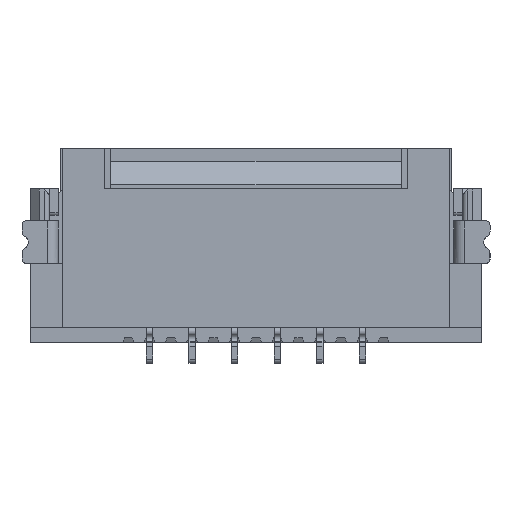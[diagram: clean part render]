
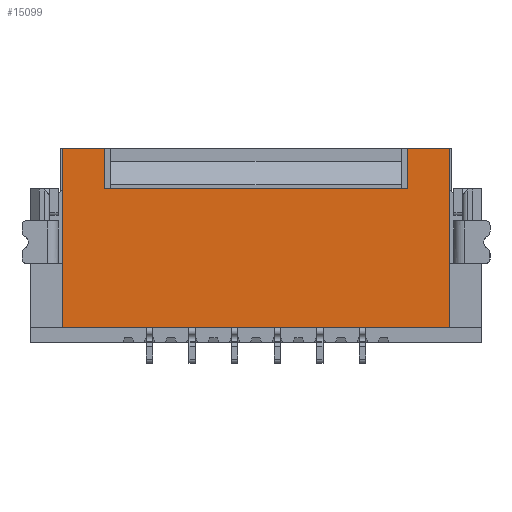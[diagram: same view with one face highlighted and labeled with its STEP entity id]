
A CAD part, front view. The second image highlights one B-rep face of the part: STEP entity #15099.
In plain terms, the highlighted planar face has unit normal (0, -1, 0).
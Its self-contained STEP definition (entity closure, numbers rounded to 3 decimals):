
#490 = DIRECTION ( 'NONE',  ( 1., 0., 0. ) ) ;
#774 = ORIENTED_EDGE ( 'NONE', *, *, #24287, .F. ) ;
#1101 = EDGE_CURVE ( 'NONE', #3991, #21468, #24185, .T. ) ;
#1594 = CARTESIAN_POINT ( 'NONE',  ( -7.55, 0.02, 3.6 ) ) ;
#2151 = VERTEX_POINT ( 'NONE', #19284 ) ;
#2256 = ORIENTED_EDGE ( 'NONE', *, *, #6588, .T. ) ;
#2680 = CARTESIAN_POINT ( 'NONE',  ( -7.55, 0.02, 3.6 ) ) ;
#3340 = VECTOR ( 'NONE', #15910, 1000. ) ;
#3991 = VERTEX_POINT ( 'NONE', #1594 ) ;
#4543 = LINE ( 'NONE', #15266, #17598 ) ;
#4938 = VERTEX_POINT ( 'NONE', #8193 ) ;
#6588 = EDGE_CURVE ( 'NONE', #25237, #2151, #8123, .T. ) ;
#6699 = VERTEX_POINT ( 'NONE', #19023 ) ;
#7390 = ORIENTED_EDGE ( 'NONE', *, *, #20955, .F. ) ;
#8123 = LINE ( 'NONE', #12975, #3340 ) ;
#8193 = CARTESIAN_POINT ( 'NONE',  ( -7.55, 0.02, 4.55 ) ) ;
#9050 = CARTESIAN_POINT ( 'NONE',  ( -8.54, 0.02, 0.35 ) ) ;
#10504 = ORIENTED_EDGE ( 'NONE', *, *, #32669, .T. ) ;
#11202 = CARTESIAN_POINT ( 'NONE',  ( -7.55, 0.02, 3.6 ) ) ;
#12033 = DIRECTION ( 'NONE',  ( 1., 0., 0. ) ) ;
#12138 = CARTESIAN_POINT ( 'NONE',  ( -0.45, 0.02, 3.6 ) ) ;
#12486 = CARTESIAN_POINT ( 'NONE',  ( 0., 0.02, 2.45 ) ) ;
#12975 = CARTESIAN_POINT ( 'NONE',  ( 0.54, 0.02, 4.55 ) ) ;
#15080 = LINE ( 'NONE', #12138, #32560 ) ;
#15099 = ADVANCED_FACE ( 'NONE', ( #24042 ), #18675, .F. ) ;
#15266 = CARTESIAN_POINT ( 'NONE',  ( -8.54, 0.02, 4.55 ) ) ;
#15285 = ORIENTED_EDGE ( 'NONE', *, *, #33474, .T. ) ;
#15295 = DIRECTION ( 'NONE',  ( 0., 0., 1. ) ) ;
#15713 = CARTESIAN_POINT ( 'NONE',  ( 0.54, 0.02, 4.55 ) ) ;
#15910 = DIRECTION ( 'NONE',  ( -1., 0., 0. ) ) ;
#17598 = VECTOR ( 'NONE', #28258, 1000. ) ;
#17745 = LINE ( 'NONE', #25372, #26160 ) ;
#17974 = AXIS2_PLACEMENT_3D ( 'NONE', #12486, #32038, #20621 ) ;
#18012 = CARTESIAN_POINT ( 'NONE',  ( 0.54, 0.02, 0.35 ) ) ;
#18675 = PLANE ( 'NONE',  #17974 ) ;
#19023 = CARTESIAN_POINT ( 'NONE',  ( -8.54, 0.02, 4.55 ) ) ;
#19284 = CARTESIAN_POINT ( 'NONE',  ( -0.45, 0.02, 4.55 ) ) ;
#20284 = EDGE_LOOP ( 'NONE', ( #10504, #774, #20424, #15285, #33407, #2256, #7390, #22402 ) ) ;
#20424 = ORIENTED_EDGE ( 'NONE', *, *, #27532, .T. ) ;
#20621 = DIRECTION ( 'NONE',  ( 1., 0., 0. ) ) ;
#20661 = DIRECTION ( 'NONE',  ( 0., 0., -1. ) ) ;
#20783 = VERTEX_POINT ( 'NONE', #9050 ) ;
#20955 = EDGE_CURVE ( 'NONE', #21468, #2151, #15080, .T. ) ;
#21468 = VERTEX_POINT ( 'NONE', #26134 ) ;
#22257 = VECTOR ( 'NONE', #15295, 1000. ) ;
#22402 = ORIENTED_EDGE ( 'NONE', *, *, #1101, .F. ) ;
#23215 = DIRECTION ( 'NONE',  ( 0., 0., 1. ) ) ;
#23427 = LINE ( 'NONE', #25870, #26124 ) ;
#24042 = FACE_OUTER_BOUND ( 'NONE', #20284, .T. ) ;
#24185 = LINE ( 'NONE', #11202, #25758 ) ;
#24287 = EDGE_CURVE ( 'NONE', #6699, #4938, #17745, .T. ) ;
#25237 = VERTEX_POINT ( 'NONE', #15713 ) ;
#25372 = CARTESIAN_POINT ( 'NONE',  ( -8.54, 0.02, 4.55 ) ) ;
#25758 = VECTOR ( 'NONE', #490, 1000. ) ;
#25870 = CARTESIAN_POINT ( 'NONE',  ( 0.54, 0.02, 4.55 ) ) ;
#26124 = VECTOR ( 'NONE', #20661, 1000. ) ;
#26134 = CARTESIAN_POINT ( 'NONE',  ( -0.45, 0.02, 3.6 ) ) ;
#26160 = VECTOR ( 'NONE', #12033, 1000. ) ;
#26266 = CARTESIAN_POINT ( 'NONE',  ( -8.54, 0.02, 0.35 ) ) ;
#26956 = LINE ( 'NONE', #2680, #22257 ) ;
#27443 = DIRECTION ( 'NONE',  ( 1., 0., 0. ) ) ;
#27532 = EDGE_CURVE ( 'NONE', #6699, #20783, #4543, .T. ) ;
#28258 = DIRECTION ( 'NONE',  ( 0., 0., -1. ) ) ;
#32038 = DIRECTION ( 'NONE',  ( 0., 1., 0. ) ) ;
#32560 = VECTOR ( 'NONE', #23215, 1000. ) ;
#32669 = EDGE_CURVE ( 'NONE', #3991, #4938, #26956, .T. ) ;
#32678 = EDGE_CURVE ( 'NONE', #25237, #34150, #23427, .T. ) ;
#33407 = ORIENTED_EDGE ( 'NONE', *, *, #32678, .F. ) ;
#33474 = EDGE_CURVE ( 'NONE', #20783, #34150, #34056, .T. ) ;
#33940 = VECTOR ( 'NONE', #27443, 1000. ) ;
#34056 = LINE ( 'NONE', #26266, #33940 ) ;
#34150 = VERTEX_POINT ( 'NONE', #18012 ) ;
